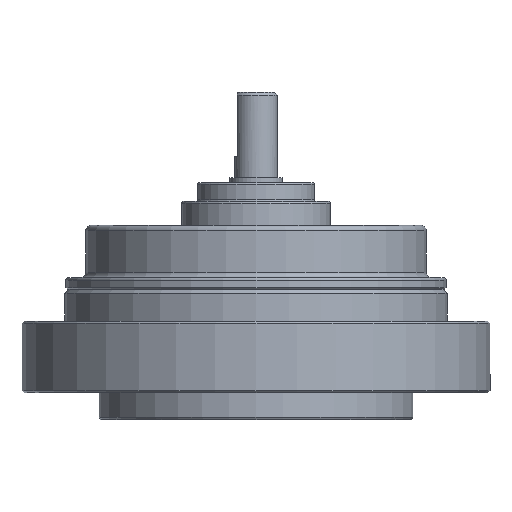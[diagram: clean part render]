
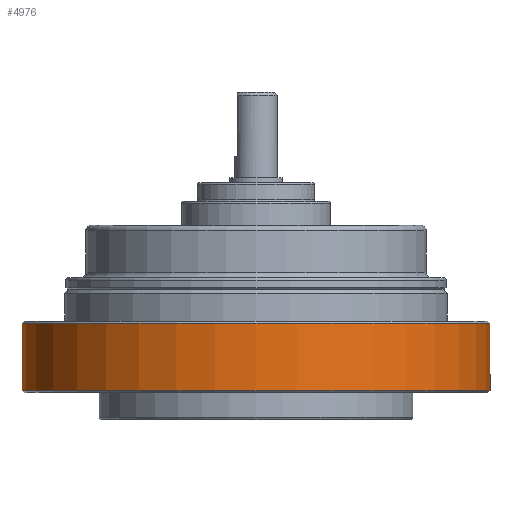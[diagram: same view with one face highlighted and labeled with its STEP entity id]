
A CAD part, front view. The second image highlights one B-rep face of the part: STEP entity #4976.
In plain terms, the highlighted cylindrical face has radius 44 mm (diameter 88 mm), a full revolution.
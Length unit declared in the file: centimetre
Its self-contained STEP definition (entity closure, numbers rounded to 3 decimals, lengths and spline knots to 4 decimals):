
#984=FACE_BOUND('',#1981,.T.);
#1163=CYLINDRICAL_SURFACE('',#5501,4.4);
#1452=FACE_OUTER_BOUND('',#1980,.T.);
#1980=EDGE_LOOP('',(#4360));
#1981=EDGE_LOOP('',(#4361));
#2322=CIRCLE('',#5499,4.4);
#2324=CIRCLE('',#5502,4.4);
#2776=VERTEX_POINT('',#8372);
#2778=VERTEX_POINT('',#8377);
#3332=EDGE_CURVE('',#2776,#2776,#2322,.T.);
#3334=EDGE_CURVE('',#2778,#2778,#2324,.T.);
#4360=ORIENTED_EDGE('',*,*,#3334,.F.);
#4361=ORIENTED_EDGE('',*,*,#3332,.F.);
#4976=ADVANCED_FACE('',(#1452,#984),#1163,.T.);
#5499=AXIS2_PLACEMENT_3D('',#8373,#6765,#6766);
#5501=AXIS2_PLACEMENT_3D('',#8376,#6769,#6770);
#5502=AXIS2_PLACEMENT_3D('',#8378,#6771,#6772);
#6765=DIRECTION('center_axis',(0.,0.,1.));
#6766=DIRECTION('ref_axis',(1.,0.,0.));
#6769=DIRECTION('center_axis',(0.,0.,-1.));
#6770=DIRECTION('ref_axis',(1.,0.,0.));
#6771=DIRECTION('center_axis',(0.,0.,-1.));
#6772=DIRECTION('ref_axis',(1.,0.,0.));
#8372=CARTESIAN_POINT('',(-4.4,0.,1.81));
#8373=CARTESIAN_POINT('Origin',(0.,0.,1.81));
#8376=CARTESIAN_POINT('Origin',(0.,0.,1.1));
#8377=CARTESIAN_POINT('',(-4.4,0.,0.54));
#8378=CARTESIAN_POINT('Origin',(0.,0.,0.54));
